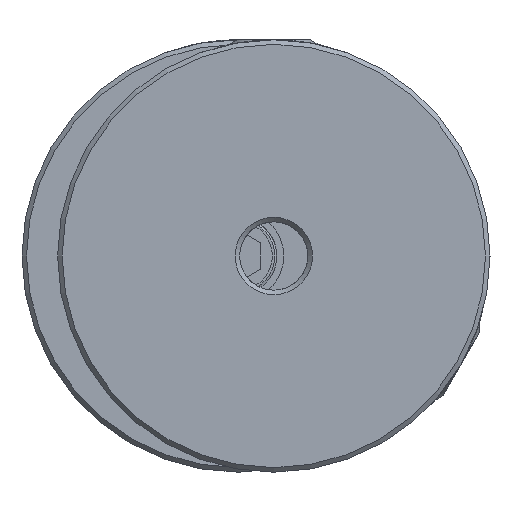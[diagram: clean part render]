
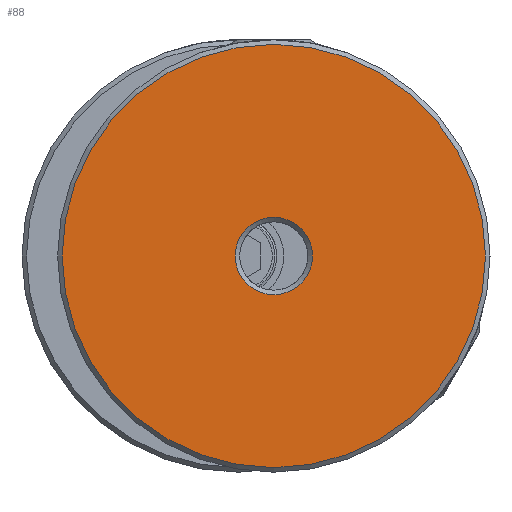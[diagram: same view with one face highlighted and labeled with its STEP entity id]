
A CAD part, left-side view. The second image highlights one B-rep face of the part: STEP entity #88.
In plain terms, the highlighted planar face has unit normal (-1, 0, 0).
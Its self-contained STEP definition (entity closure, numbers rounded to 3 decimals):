
#88 = ADVANCED_FACE( 'NONE', ( #171, #172 ), #173, .F. );
#171 = FACE_OUTER_BOUND( '', #253, .T. );
#172 = FACE_BOUND( '', #254, .T. );
#173 = PLANE( '', #255 );
#253 = EDGE_LOOP( '', ( #457 ) );
#254 = EDGE_LOOP( '', ( #458 ) );
#255 = AXIS2_PLACEMENT_3D( '', #459, #460, #461 );
#457 = ORIENTED_EDGE( '', *, *, #762, .T. );
#458 = ORIENTED_EDGE( '', *, *, #760, .T. );
#459 = CARTESIAN_POINT( '', ( 0., 9.5, 0. ) );
#460 = DIRECTION( '', ( 1., 0., 0. ) );
#461 = DIRECTION( '', ( 0., 1., 0. ) );
#760 = EDGE_CURVE( 'NONE', #1077, #1077, #1078, .T. );
#762 = EDGE_CURVE( 'NONE', #1080, #1080, #1081, .F. );
#1077 = VERTEX_POINT( '', #1804 );
#1078 = CIRCLE( '', #1805, 1.7 );
#1080 = VERTEX_POINT( '', #1807 );
#1081 = CIRCLE( '', #1808, 9.3 );
#1804 = CARTESIAN_POINT( '', ( 0., 0., -1.7 ) );
#1805 = AXIS2_PLACEMENT_3D( '', #1945, #1946, #1947 );
#1807 = CARTESIAN_POINT( '', ( 0., 0., -9.3 ) );
#1808 = AXIS2_PLACEMENT_3D( '', #1948, #1949, #1950 );
#1945 = CARTESIAN_POINT( '', ( 0., 0., 0. ) );
#1946 = DIRECTION( '', ( 1., 0., 0. ) );
#1947 = DIRECTION( '', ( 0., 0., -1. ) );
#1948 = CARTESIAN_POINT( '', ( 0., 0., 0. ) );
#1949 = DIRECTION( '', ( 1., 0., 0. ) );
#1950 = DIRECTION( '', ( 0., 0., -1. ) );
